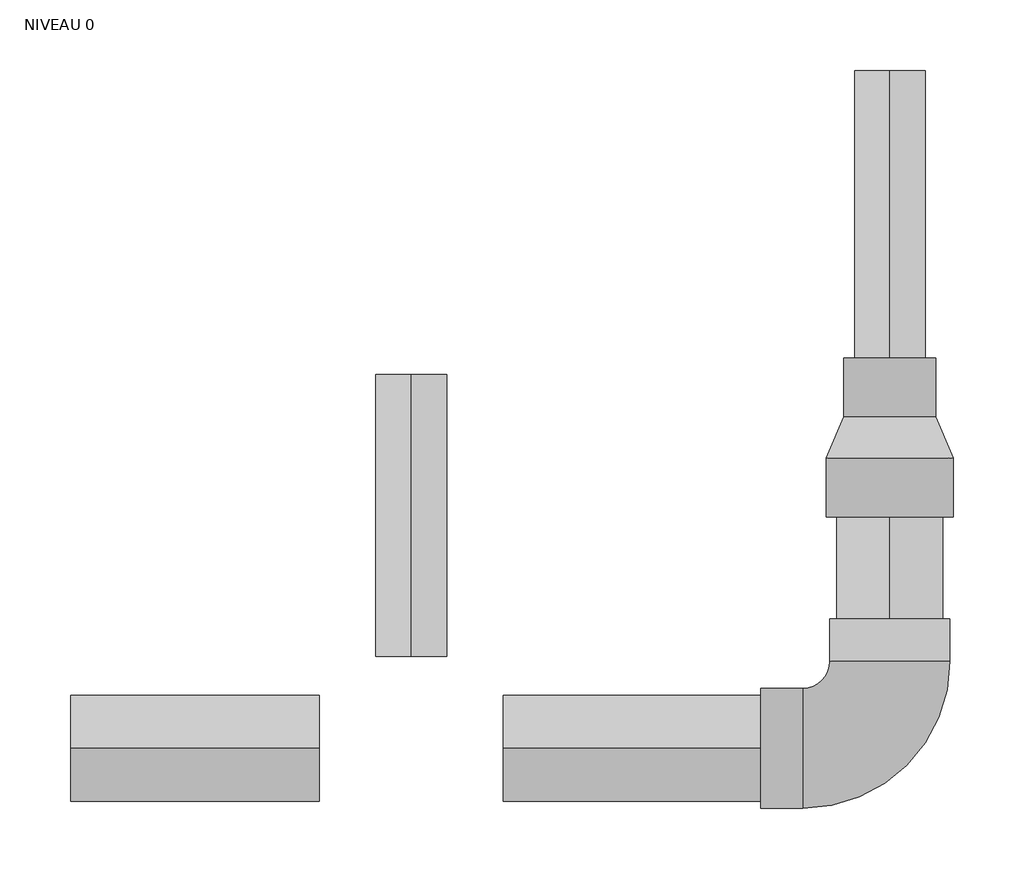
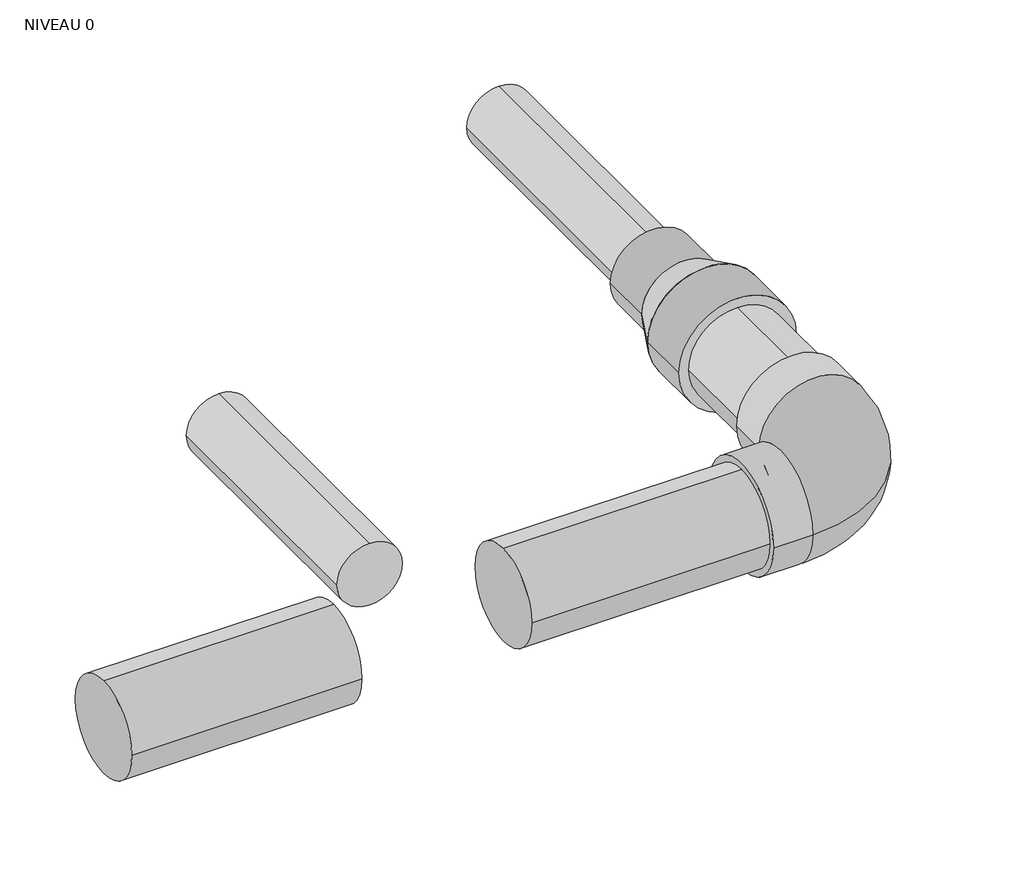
# One storey, incomplete: 5 pipe segments, 2 pipe fittings.
"""IFC4 building model written with IfcOpenShell, lengths in millimetres."""

from ifc_helpers import new_model, si_unit, point, frame, frame_2d, origin, place, context, project, spatial, circle_curve, trimmed, segment, composite_curve, outline, extrude, transform, mapped, element, save
from components import standard_ff283e1d, standard_10568c51

model = new_model("IFC4")

# Units and contexts
model_context = context("Model", 3, world=origin())
ifc_project = project(units=[si_unit("LENGTHUNIT", "METRE", prefix="MILLI")], contexts=[model_context])

# Site, building, storey
site = spatial("IfcSite", under=ifc_project)
building = spatial("IfcBuilding", under=site)
storey = spatial("IfcBuildingStorey", under=building, Name="NIVEAU 0", Elevation=0.0)

# Pipe fittings
placement = place(None, origin())
standard_shape = standard_ff283e1d(model_context)
element("IfcPipeFitting", 1, ObjectType="Coude court PVC-C Pression PN 16 : Standard", at=placement, inside=storey, context=model_context, shape_type="MappedRepresentation", body=[
    mapped(standard_shape, transform((-2039.942324, -3118.7251775, 128.0), x_axis=(1.0, 0.0, 0.0), y_axis=(0.0, 1.0, 0.0), z_axis=(0.0, 0.0, 1.0))),
])
standard_2_shape = standard_10568c51(model_context)
element("IfcPipeFitting", 2, ObjectType="Réduction PVC-C Pression PN16 : Standard", at=placement, inside=storey, context=model_context, shape_type="MappedRepresentation", body=[
    mapped(standard_2_shape, transform((-1908.9809787, -2898.7251775, 128.0), x_axis=(0.0, 1.0, 0.0), y_axis=(-1.0, 0.0, 0.0), z_axis=(0.0, 0.0, 1.0))),
])

# Pipe segments
element("IfcPipeSegment", 3, ObjectType="PVC Pression PVC-C PN 16", at=placement, inside=storey, context=model_context, shape_type="SweptSolid", body=[
    extrude(outline(composite_curve([segment(trimmed(circle_curve(frame_2d((-3118.7251775, 128.0)), 37.5), [point((-3156.2251775, 128.0))], [point((-3118.7251775, 165.5))], False, "CARTESIAN"), True, "CONTINUOUS"), segment(trimmed(circle_curve(frame_2d((-3118.7251775, 128.0)), 37.5), [point((-3118.7251775, 165.5))], [point((-3081.2251775, 128.0))], False, "CARTESIAN"), True, "CONTINUOUS"), segment(trimmed(circle_curve(frame_2d((-3118.7251775, 128.0)), 37.5), [point((-3081.2251775, 128.0))], [point((-3118.7251775, 90.5))], False, "CARTESIAN"), True, "CONTINUOUS"), segment(trimmed(circle_curve(frame_2d((-3118.7251775, 128.0)), 37.5), [point((-3118.7251775, 90.5))], [point((-3156.2251775, 128.0))], False, "CARTESIAN"), True, "CONTINUOUS")], self_intersect=False)), frame((-2182.8155541, 0.0, 0.0), z_axis=(1.0, 0.0, 0.0), x_axis=(0.0, 1.0, 0.0)), (0.0, 0.0, 1.0), 182.3162854),
])
element("IfcPipeSegment", 4, ObjectType="PVC Pression PVC-C PN 16", at=placement, inside=storey, context=model_context, shape_type="SweptSolid", body=[
    extrude(outline(composite_curve([segment(trimmed(circle_curve(frame_2d((128.0, -1908.9809787)), 37.5), [point((128.0, -1871.4809787))], [point((165.5, -1908.9809787))], False, "CARTESIAN"), True, "CONTINUOUS"), segment(trimmed(circle_curve(frame_2d((128.0, -1908.9809787)), 37.5), [point((165.5, -1908.9809787))], [point((128.0, -1946.4809787))], False, "CARTESIAN"), True, "CONTINUOUS"), segment(trimmed(circle_curve(frame_2d((128.0, -1908.9809787)), 37.5), [point((128.0, -1946.4809787))], [point((90.5, -1908.9809787))], False, "CARTESIAN"), True, "CONTINUOUS"), segment(trimmed(circle_curve(frame_2d((128.0, -1908.9809787)), 37.5), [point((90.5, -1908.9809787))], [point((128.0, -1871.4809787))], False, "CARTESIAN"), True, "CONTINUOUS")], self_intersect=False)), frame((0.0, -3027.2068875, 0.0), z_axis=(0.0, 1.0, 0.0), x_axis=(0.0, 0.0, 1.0)), (0.0, 0.0, 1.0), 72.23171),
])
element("IfcPipeSegment", 5, ObjectType="PVC Pression PVC-C PN 16", at=placement, inside=storey, context=model_context, shape_type="SweptSolid", body=[
    extrude(outline(composite_curve([segment(trimmed(circle_curve(frame_2d((128.0, -1908.9809787)), 25.0), [point((128.0, -1883.9809787))], [point((153.0, -1908.9809787))], False, "CARTESIAN"), True, "CONTINUOUS"), segment(trimmed(circle_curve(frame_2d((128.0, -1908.9809787)), 25.0), [point((153.0, -1908.9809787))], [point((128.0, -1933.9809787))], False, "CARTESIAN"), True, "CONTINUOUS"), segment(trimmed(circle_curve(frame_2d((128.0, -1908.9809787)), 25.0), [point((128.0, -1933.9809787))], [point((103.0, -1908.9809787))], False, "CARTESIAN"), True, "CONTINUOUS"), segment(trimmed(circle_curve(frame_2d((128.0, -1908.9809787)), 25.0), [point((103.0, -1908.9809787))], [point((128.0, -1883.9809787))], False, "CARTESIAN"), True, "CONTINUOUS")], self_intersect=False)), frame((0.0, -2842.4751775, 0.0), z_axis=(0.0, 1.0, 0.0), x_axis=(0.0, 0.0, 1.0)), (0.0, 0.0, 1.0), 203.75),
])
element("IfcPipeSegment", 6, ObjectType="PVC Pression PVC-C PN 16", at=placement, inside=storey, context=model_context, shape_type="SweptSolid", body=[
    extrude(outline(composite_curve([segment(trimmed(circle_curve(frame_2d((128.0, -2247.8155541)), 25.0), [point((128.0, -2222.8155541))], [point((153.0, -2247.8155541))], False, "CARTESIAN"), True, "CONTINUOUS"), segment(trimmed(circle_curve(frame_2d((128.0, -2247.8155541)), 25.0), [point((153.0, -2247.8155541))], [point((128.0, -2272.8155541))], False, "CARTESIAN"), True, "CONTINUOUS"), segment(trimmed(circle_curve(frame_2d((128.0, -2247.8155541)), 25.0), [point((128.0, -2272.8155541))], [point((103.0, -2247.8155541))], False, "CARTESIAN"), True, "CONTINUOUS"), segment(trimmed(circle_curve(frame_2d((128.0, -2247.8155541)), 25.0), [point((103.0, -2247.8155541))], [point((128.0, -2222.8155541))], False, "CARTESIAN"), True, "CONTINUOUS")], self_intersect=False)), frame((0.0, -3053.7251775, 0.0), z_axis=(0.0, 1.0, 0.0), x_axis=(0.0, 0.0, 1.0)), (0.0, 0.0, 1.0), 199.6937588),
])
element("IfcPipeSegment", 7, ObjectType="PVC Pression PVC-C PN 16", at=placement, inside=storey, context=model_context, shape_type="SweptSolid", body=[
    extrude(outline(composite_curve([segment(trimmed(circle_curve(frame_2d((-3118.7251775, 128.0)), 37.5), [point((-3156.2251775, 128.0))], [point((-3118.7251775, 165.5))], False, "CARTESIAN"), True, "CONTINUOUS"), segment(trimmed(circle_curve(frame_2d((-3118.7251775, 128.0)), 37.5), [point((-3118.7251775, 165.5))], [point((-3081.2251775, 128.0))], False, "CARTESIAN"), True, "CONTINUOUS"), segment(trimmed(circle_curve(frame_2d((-3118.7251775, 128.0)), 37.5), [point((-3081.2251775, 128.0))], [point((-3118.7251775, 90.5))], False, "CARTESIAN"), True, "CONTINUOUS"), segment(trimmed(circle_curve(frame_2d((-3118.7251775, 128.0)), 37.5), [point((-3118.7251775, 90.5))], [point((-3156.2251775, 128.0))], False, "CARTESIAN"), True, "CONTINUOUS")], self_intersect=False)), frame((-2488.9809787, 0.0, 0.0), z_axis=(1.0, 0.0, 0.0), x_axis=(0.0, 1.0, 0.0)), (0.0, 0.0, 1.0), 176.1654246),
])

save(model, "model.ifc")
